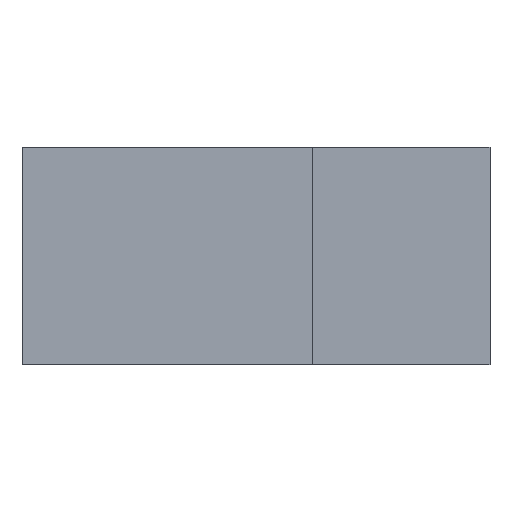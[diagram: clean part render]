
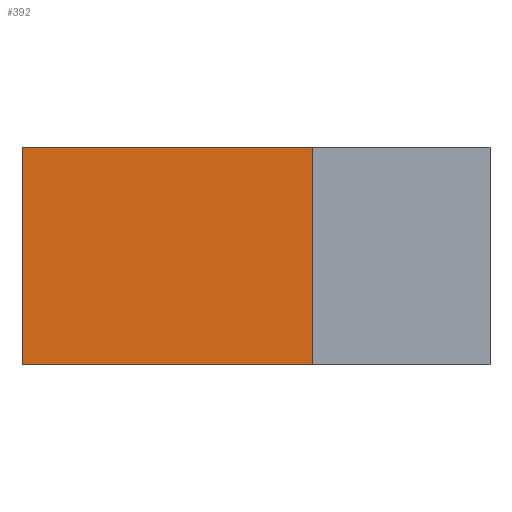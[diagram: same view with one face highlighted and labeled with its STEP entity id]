
A CAD part, top view. The second image highlights one B-rep face of the part: STEP entity #392.
In plain terms, the highlighted planar face has unit normal (0, 0, 1).
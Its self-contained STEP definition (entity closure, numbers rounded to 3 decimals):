
#32 = PLANE('',#33);
#33 = AXIS2_PLACEMENT_3D('',#34,#35,#36);
#34 = CARTESIAN_POINT('',(23.15,-5.85,-38.3));
#35 = DIRECTION('',(-0.,1.,0.));
#36 = DIRECTION('',(0.,0.,1.));
#85 = VERTEX_POINT('',#86);
#86 = CARTESIAN_POINT('',(19.2,-5.85,-38.1));
#100 = PLANE('',#101);
#101 = AXIS2_PLACEMENT_3D('',#102,#103,#104);
#102 = CARTESIAN_POINT('',(19.2,-5.85,-38.4));
#103 = DIRECTION('',(1.,0.,-0.));
#104 = DIRECTION('',(0.,0.,1.));
#112 = EDGE_CURVE('',#85,#113,#115,.T.);
#113 = VERTEX_POINT('',#114);
#114 = CARTESIAN_POINT('',(23.2,-5.85,-38.1));
#115 = SURFACE_CURVE('',#116,(#120,#127),.PCURVE_S1.);
#116 = LINE('',#117,#118);
#117 = CARTESIAN_POINT('',(19.2,-5.85,-38.1));
#118 = VECTOR('',#119,1.);
#119 = DIRECTION('',(1.,0.,-0.));
#120 = PCURVE('',#32,#121);
#121 = DEFINITIONAL_REPRESENTATION('',(#122),#126);
#122 = LINE('',#123,#124);
#123 = CARTESIAN_POINT('',(0.2,-3.95));
#124 = VECTOR('',#125,1.);
#125 = DIRECTION('',(0.,1.));
#126 = ( GEOMETRIC_REPRESENTATION_CONTEXT(2) 
PARAMETRIC_REPRESENTATION_CONTEXT() REPRESENTATION_CONTEXT('2D SPACE',''
  ) );
#127 = PCURVE('',#128,#133);
#128 = PLANE('',#129);
#129 = AXIS2_PLACEMENT_3D('',#130,#131,#132);
#130 = CARTESIAN_POINT('',(19.2,-5.85,-38.1));
#131 = DIRECTION('',(0.,0.,1.));
#132 = DIRECTION('',(1.,0.,-0.));
#133 = DEFINITIONAL_REPRESENTATION('',(#134),#138);
#134 = LINE('',#135,#136);
#135 = CARTESIAN_POINT('',(0.,0.));
#136 = VECTOR('',#137,1.);
#137 = DIRECTION('',(1.,0.));
#138 = ( GEOMETRIC_REPRESENTATION_CONTEXT(2) 
PARAMETRIC_REPRESENTATION_CONTEXT() REPRESENTATION_CONTEXT('2D SPACE',''
  ) );
#156 = PLANE('',#157);
#157 = AXIS2_PLACEMENT_3D('',#158,#159,#160);
#158 = CARTESIAN_POINT('',(23.2,-5.85,-38.4));
#159 = DIRECTION('',(1.,0.,-0.));
#160 = DIRECTION('',(0.,0.,1.));
#293 = PLANE('',#294);
#294 = AXIS2_PLACEMENT_3D('',#295,#296,#297);
#295 = CARTESIAN_POINT('',(19.2,-2.85,-38.4));
#296 = DIRECTION('',(-0.,1.,0.));
#297 = DIRECTION('',(0.,0.,1.));
#350 = VERTEX_POINT('',#351);
#351 = CARTESIAN_POINT('',(23.2,-2.85,-38.1));
#372 = EDGE_CURVE('',#113,#350,#373,.T.);
#373 = SURFACE_CURVE('',#374,(#378,#385),.PCURVE_S1.);
#374 = LINE('',#375,#376);
#375 = CARTESIAN_POINT('',(23.2,-5.85,-38.1));
#376 = VECTOR('',#377,1.);
#377 = DIRECTION('',(-0.,1.,0.));
#378 = PCURVE('',#156,#379);
#379 = DEFINITIONAL_REPRESENTATION('',(#380),#384);
#380 = LINE('',#381,#382);
#381 = CARTESIAN_POINT('',(0.3,0.));
#382 = VECTOR('',#383,1.);
#383 = DIRECTION('',(0.,-1.));
#384 = ( GEOMETRIC_REPRESENTATION_CONTEXT(2) 
PARAMETRIC_REPRESENTATION_CONTEXT() REPRESENTATION_CONTEXT('2D SPACE',''
  ) );
#385 = PCURVE('',#128,#386);
#386 = DEFINITIONAL_REPRESENTATION('',(#387),#391);
#387 = LINE('',#388,#389);
#388 = CARTESIAN_POINT('',(4.,0.));
#389 = VECTOR('',#390,1.);
#390 = DIRECTION('',(0.,1.));
#391 = ( GEOMETRIC_REPRESENTATION_CONTEXT(2) 
PARAMETRIC_REPRESENTATION_CONTEXT() REPRESENTATION_CONTEXT('2D SPACE',''
  ) );
#392 = ADVANCED_FACE('',(#393),#128,.T.);
#393 = FACE_BOUND('',#394,.T.);
#394 = EDGE_LOOP('',(#395,#418,#419,#420));
#395 = ORIENTED_EDGE('',*,*,#396,.F.);
#396 = EDGE_CURVE('',#85,#397,#399,.T.);
#397 = VERTEX_POINT('',#398);
#398 = CARTESIAN_POINT('',(19.2,-2.85,-38.1));
#399 = SURFACE_CURVE('',#400,(#404,#411),.PCURVE_S1.);
#400 = LINE('',#401,#402);
#401 = CARTESIAN_POINT('',(19.2,-5.85,-38.1));
#402 = VECTOR('',#403,1.);
#403 = DIRECTION('',(-0.,1.,0.));
#404 = PCURVE('',#128,#405);
#405 = DEFINITIONAL_REPRESENTATION('',(#406),#410);
#406 = LINE('',#407,#408);
#407 = CARTESIAN_POINT('',(0.,0.));
#408 = VECTOR('',#409,1.);
#409 = DIRECTION('',(0.,1.));
#410 = ( GEOMETRIC_REPRESENTATION_CONTEXT(2) 
PARAMETRIC_REPRESENTATION_CONTEXT() REPRESENTATION_CONTEXT('2D SPACE',''
  ) );
#411 = PCURVE('',#100,#412);
#412 = DEFINITIONAL_REPRESENTATION('',(#413),#417);
#413 = LINE('',#414,#415);
#414 = CARTESIAN_POINT('',(0.3,0.));
#415 = VECTOR('',#416,1.);
#416 = DIRECTION('',(0.,-1.));
#417 = ( GEOMETRIC_REPRESENTATION_CONTEXT(2) 
PARAMETRIC_REPRESENTATION_CONTEXT() REPRESENTATION_CONTEXT('2D SPACE',''
  ) );
#418 = ORIENTED_EDGE('',*,*,#112,.T.);
#419 = ORIENTED_EDGE('',*,*,#372,.T.);
#420 = ORIENTED_EDGE('',*,*,#421,.F.);
#421 = EDGE_CURVE('',#397,#350,#422,.T.);
#422 = SURFACE_CURVE('',#423,(#427,#434),.PCURVE_S1.);
#423 = LINE('',#424,#425);
#424 = CARTESIAN_POINT('',(19.2,-2.85,-38.1));
#425 = VECTOR('',#426,1.);
#426 = DIRECTION('',(1.,0.,-0.));
#427 = PCURVE('',#128,#428);
#428 = DEFINITIONAL_REPRESENTATION('',(#429),#433);
#429 = LINE('',#430,#431);
#430 = CARTESIAN_POINT('',(0.,3.));
#431 = VECTOR('',#432,1.);
#432 = DIRECTION('',(1.,0.));
#433 = ( GEOMETRIC_REPRESENTATION_CONTEXT(2) 
PARAMETRIC_REPRESENTATION_CONTEXT() REPRESENTATION_CONTEXT('2D SPACE',''
  ) );
#434 = PCURVE('',#293,#435);
#435 = DEFINITIONAL_REPRESENTATION('',(#436),#440);
#436 = LINE('',#437,#438);
#437 = CARTESIAN_POINT('',(0.3,0.));
#438 = VECTOR('',#439,1.);
#439 = DIRECTION('',(0.,1.));
#440 = ( GEOMETRIC_REPRESENTATION_CONTEXT(2) 
PARAMETRIC_REPRESENTATION_CONTEXT() REPRESENTATION_CONTEXT('2D SPACE',''
  ) );
